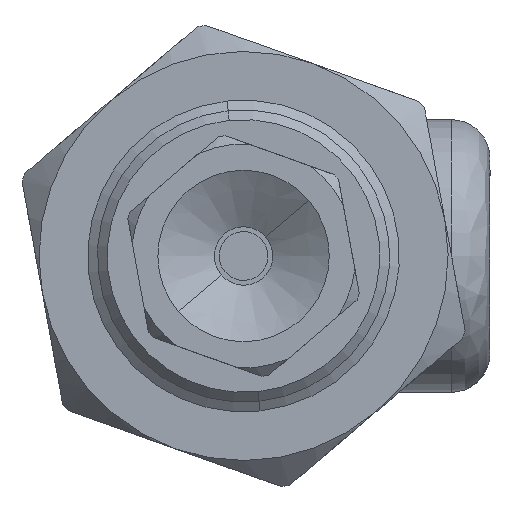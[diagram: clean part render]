
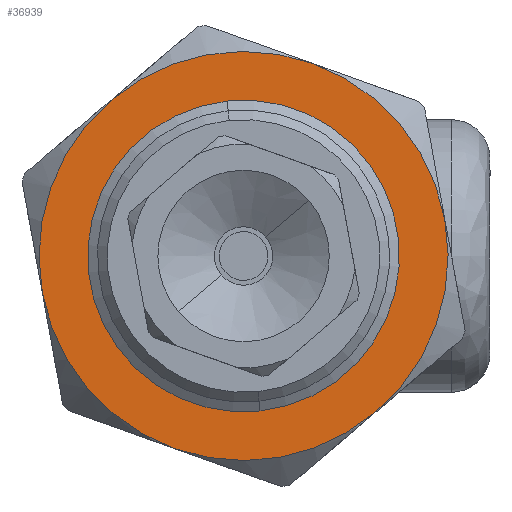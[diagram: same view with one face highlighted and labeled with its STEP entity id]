
A CAD part, front view. The second image highlights one B-rep face of the part: STEP entity #36939.
In plain terms, the highlighted planar face has unit normal (0, -1, 0).
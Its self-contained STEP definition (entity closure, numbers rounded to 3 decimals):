
#2 = ORIENTED_EDGE ( 'NONE', *, *, #5393, .F. ) ;
#219 = CARTESIAN_POINT ( 'NONE',  ( 34.121, -13.405, 61.302 ) ) ;
#960 = VERTEX_POINT ( 'NONE', #8536 ) ;
#1374 = CIRCLE ( 'NONE', #2993, 7.25 ) ;
#1869 = CARTESIAN_POINT ( 'NONE',  ( 26.989, -13.405, 60. ) ) ;
#1986 = DIRECTION ( 'NONE',  ( 0., -1., 0. ) ) ;
#2229 = EDGE_CURVE ( 'NONE', #960, #9110, #37341, .T. ) ;
#2299 = DIRECTION ( 'NONE',  ( 0., 1., 0. ) ) ;
#2993 = AXIS2_PLACEMENT_3D ( 'NONE', #3426, #20969, #6342 ) ;
#3385 = VERTEX_POINT ( 'NONE', #23288 ) ;
#3426 = CARTESIAN_POINT ( 'NONE',  ( 26.989, -13.405, 60. ) ) ;
#3561 = VERTEX_POINT ( 'NONE', #3731 ) ;
#3731 = CARTESIAN_POINT ( 'NONE',  ( 16.66, -13.405, 58.114 ) ) ;
#4796 = FACE_OUTER_BOUND ( 'NONE', #28811, .T. ) ;
#5243 = ORIENTED_EDGE ( 'NONE', *, *, #7409, .F. ) ;
#5393 = EDGE_CURVE ( 'NONE', #9110, #3561, #17153, .T. ) ;
#5482 = AXIS2_PLACEMENT_3D ( 'NONE', #7459, #33875, #10619 ) ;
#5656 = DIRECTION ( 'NONE',  ( -0.984, 0., -0.18 ) ) ;
#5991 = AXIS2_PLACEMENT_3D ( 'NONE', #10492, #16363, #36662 ) ;
#6342 = DIRECTION ( 'NONE',  ( -0.984, 0., -0.18 ) ) ;
#6776 = ORIENTED_EDGE ( 'NONE', *, *, #35939, .F. ) ;
#7304 = AXIS2_PLACEMENT_3D ( 'NONE', #21201, #27042, #9600 ) ;
#7373 = DIRECTION ( 'NONE',  ( 0., 1., 0. ) ) ;
#7409 = EDGE_CURVE ( 'NONE', #8161, #12627, #9796, .T. ) ;
#7459 = CARTESIAN_POINT ( 'NONE',  ( 26.989, -13.405, 60. ) ) ;
#8161 = VERTEX_POINT ( 'NONE', #35216 ) ;
#8345 = CARTESIAN_POINT ( 'NONE',  ( 26.989, -13.405, 60. ) ) ;
#8536 = CARTESIAN_POINT ( 'NONE',  ( 33.787, -13.405, 51.997 ) ) ;
#9110 = VERTEX_POINT ( 'NONE', #22452 ) ;
#9600 = DIRECTION ( 'NONE',  ( -0.984, 0., -0.18 ) ) ;
#9796 = CIRCLE ( 'NONE', #18773, 10.5 ) ;
#10177 = ORIENTED_EDGE ( 'NONE', *, *, #2229, .F. ) ;
#10492 = CARTESIAN_POINT ( 'NONE',  ( 26.989, -13.405, 60. ) ) ;
#10526 = PLANE ( 'NONE',  #10567 ) ;
#10567 = AXIS2_PLACEMENT_3D ( 'NONE', #33420, #7373, #13232 ) ;
#10619 = DIRECTION ( 'NONE',  ( -0.984, 0., -0.18 ) ) ;
#10708 = DIRECTION ( 'NONE',  ( 0., 1., 0. ) ) ;
#11397 = AXIS2_PLACEMENT_3D ( 'NONE', #8345, #2299, #14072 ) ;
#12602 = EDGE_CURVE ( 'NONE', #31941, #8161, #20611, .T. ) ;
#12627 = VERTEX_POINT ( 'NONE', #36549 ) ;
#13232 = DIRECTION ( 'NONE',  ( -0.984, 0., -0.18 ) ) ;
#14072 = DIRECTION ( 'NONE',  ( 0.18, 0., -0.984 ) ) ;
#15286 = EDGE_CURVE ( 'NONE', #12627, #960, #19527, .T. ) ;
#16363 = DIRECTION ( 'NONE',  ( 0., 1., 0. ) ) ;
#16572 = ORIENTED_EDGE ( 'NONE', *, *, #34130, .F. ) ;
#17153 = CIRCLE ( 'NONE', #5991, 10.5 ) ;
#17510 = ORIENTED_EDGE ( 'NONE', *, *, #15286, .F. ) ;
#18494 = FACE_BOUND ( 'NONE', #37269, .T. ) ;
#18773 = AXIS2_PLACEMENT_3D ( 'NONE', #25486, #19658, #5656 ) ;
#19527 = CIRCLE ( 'NONE', #11397, 10.5 ) ;
#19549 = ORIENTED_EDGE ( 'NONE', *, *, #27269, .F. ) ;
#19658 = DIRECTION ( 'NONE',  ( 0., 1., 0. ) ) ;
#20611 = CIRCLE ( 'NONE', #5482, 10.5 ) ;
#20969 = DIRECTION ( 'NONE',  ( 0., -1., 0. ) ) ;
#21201 = CARTESIAN_POINT ( 'NONE',  ( 26.989, -13.405, 60. ) ) ;
#22064 = DIRECTION ( 'NONE',  ( -0.984, 0., -0.18 ) ) ;
#22452 = CARTESIAN_POINT ( 'NONE',  ( 23.458, -13.405, 50.112 ) ) ;
#23288 = CARTESIAN_POINT ( 'NONE',  ( 19.857, -13.405, 58.698 ) ) ;
#24548 = ORIENTED_EDGE ( 'NONE', *, *, #12602, .F. ) ;
#25486 = CARTESIAN_POINT ( 'NONE',  ( 26.989, -13.405, 60. ) ) ;
#26423 = AXIS2_PLACEMENT_3D ( 'NONE', #28139, #10708, #33972 ) ;
#26647 = AXIS2_PLACEMENT_3D ( 'NONE', #1869, #1986, #22064 ) ;
#26699 = CIRCLE ( 'NONE', #26647, 7.25 ) ;
#26786 = CIRCLE ( 'NONE', #26423, 10.5 ) ;
#27042 = DIRECTION ( 'NONE',  ( 0., 1., 0. ) ) ;
#27269 = EDGE_CURVE ( 'NONE', #3561, #31941, #26786, .T. ) ;
#28139 = CARTESIAN_POINT ( 'NONE',  ( 26.989, -13.405, 60. ) ) ;
#28811 = EDGE_LOOP ( 'NONE', ( #24548, #19549, #2, #10177, #17510, #5243 ) ) ;
#31941 = VERTEX_POINT ( 'NONE', #33229 ) ;
#33229 = CARTESIAN_POINT ( 'NONE',  ( 20.191, -13.405, 68.003 ) ) ;
#33420 = CARTESIAN_POINT ( 'NONE',  ( 26.989, -13.405, 60. ) ) ;
#33875 = DIRECTION ( 'NONE',  ( 0., 1., 0. ) ) ;
#33972 = DIRECTION ( 'NONE',  ( -0.984, 0., -0.18 ) ) ;
#34130 = EDGE_CURVE ( 'NONE', #3385, #36241, #1374, .T. ) ;
#35216 = CARTESIAN_POINT ( 'NONE',  ( 30.521, -13.405, 69.888 ) ) ;
#35939 = EDGE_CURVE ( 'NONE', #36241, #3385, #26699, .T. ) ;
#36241 = VERTEX_POINT ( 'NONE', #219 ) ;
#36549 = CARTESIAN_POINT ( 'NONE',  ( 37.319, -13.405, 61.886 ) ) ;
#36662 = DIRECTION ( 'NONE',  ( -0.984, 0., -0.18 ) ) ;
#36939 = ADVANCED_FACE ( 'NONE', ( #4796, #18494 ), #10526, .F. ) ;
#37269 = EDGE_LOOP ( 'NONE', ( #16572, #6776 ) ) ;
#37341 = CIRCLE ( 'NONE', #7304, 10.5 ) ;
